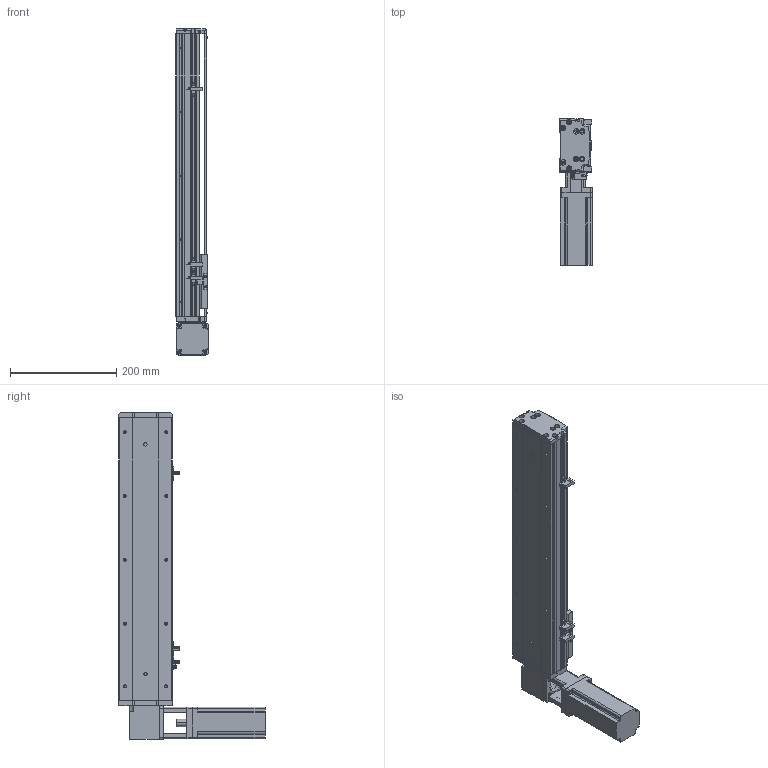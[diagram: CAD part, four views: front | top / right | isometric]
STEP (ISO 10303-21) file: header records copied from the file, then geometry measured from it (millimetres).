
FILE_DESCRIPTION (( 'STEP AP214' ), '1' );
FILE_NAME ('KSD100B-S350-MLT-CM.STEP', '2019-11-11T03:45:13', ( '微软用户' ), ( '微软中国' ), 'SwSTEP 2.0', 'SolidWorks 2014', '' );
FILE_SCHEMA (( 'AUTOMOTIVE_DESIGN' ));
Length unit declared in the file: millimetre
Products named in the file (12): 100宽安装板同步带带电机座400W,86; 100遵鎮湛假蚾啣1 ; 100宽防尘板350行程-同步带; U倰嫖萇EEㄜSX672; 覜茼え100遵圉猾敕; 台达ECMA－C20604AS伺服电机; 100宽马达安装板同步带右; 100宽同步带安装板半封闭; 100宽马达安装板同步带; 100遵傷啣肮祭湍; 100宽底板半封闭同步带350行程; KSD100B-S350-MLT-CM
Assembly tree (13 placements, depth 2):
  KSD100B-S350-MLT-CM
    100宽底板半封闭同步带350行程
    100遵傷啣肮祭湍
    100宽马达安装板同步带
    100宽同步带安装板半封闭
    100宽马达安装板同步带右
    台达ECMA－C20604AS伺服电机
    覜茼え100遵圉猾敕
    U倰嫖萇EEㄜSX672  x3
    100宽防尘板350行程-同步带
    100遵鎮湛假蚾啣1 
    100宽安装板同步带带电机座400W,86
Bounding box: 61 x 275 x 615 mm (x, y, z)
Volume: 1718412 mm3; surface area: 514690 mm2
Topology: 14 solids, 14 shells, 1278 faces, 3559 edges, 2287 vertices
Faces by surface type: cylinder 628, plane 555, cone 95
Entity records: 43107 total; most frequent: CARTESIAN_POINT 7890, DIRECTION 6139, ORIENTED_EDGE 5834, EDGE_CURVE 2917, AXIS2_PLACEMENT_3D 2242, VERTEX_POINT 1911, LINE 1655, VECTOR 1655
